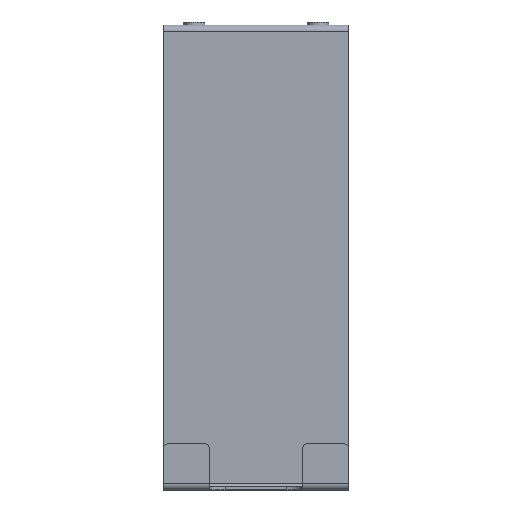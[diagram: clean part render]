
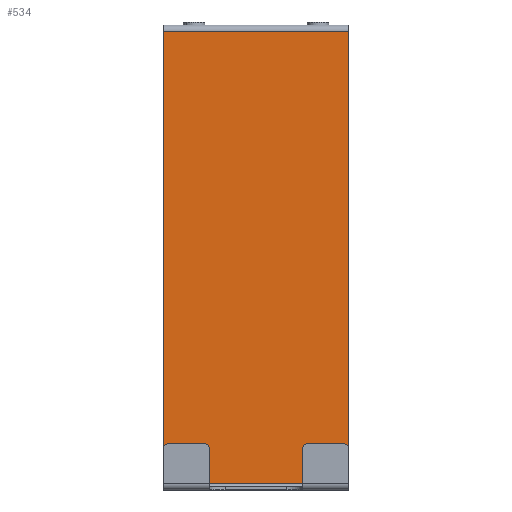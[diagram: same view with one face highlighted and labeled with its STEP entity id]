
A CAD part, top view. The second image highlights one B-rep face of the part: STEP entity #534.
In plain terms, the highlighted planar face has unit normal (0, 0, 1).
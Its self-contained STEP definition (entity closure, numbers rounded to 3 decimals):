
#13 = ORIENTED_EDGE ( 'NONE', *, *, #280, .F. ) ;
#25 = CIRCLE ( 'NONE', #1792, 3.4 ) ;
#29 = ORIENTED_EDGE ( 'NONE', *, *, #1346, .T. ) ;
#53 = VECTOR ( 'NONE', #770, 1000. ) ;
#163 = CARTESIAN_POINT ( 'NONE',  ( 30., -74.5, 0. ) ) ;
#165 = AXIS2_PLACEMENT_3D ( 'NONE', #2030, #685, #1547 ) ;
#178 = AXIS2_PLACEMENT_3D ( 'NONE', #789, #2016, #779 ) ;
#200 = CIRCLE ( 'NONE', #165, 3.4 ) ;
#210 = EDGE_CURVE ( 'NONE', #691, #363, #964, .T. ) ;
#213 = ORIENTED_EDGE ( 'NONE', *, *, #509, .F. ) ;
#214 = CARTESIAN_POINT ( 'NONE',  ( -20., -65.5, 0. ) ) ;
#280 = EDGE_CURVE ( 'NONE', #2226, #1443, #2079, .T. ) ;
#288 = AXIS2_PLACEMENT_3D ( 'NONE', #1352, #1366, #1530 ) ;
#329 = CARTESIAN_POINT ( 'NONE',  ( 16.6, -65.5, 0. ) ) ;
#363 = VERTEX_POINT ( 'NONE', #329 ) ;
#396 = CARTESIAN_POINT ( 'NONE',  ( -23.4, -65.5, 0. ) ) ;
#427 = ORIENTED_EDGE ( 'NONE', *, *, #488, .F. ) ;
#488 = EDGE_CURVE ( 'NONE', #1670, #1551, #880, .T. ) ;
#509 = EDGE_CURVE ( 'NONE', #1443, #2226, #25, .T. ) ;
#514 = CARTESIAN_POINT ( 'NONE',  ( -20., -65.5, 0. ) ) ;
#534 = ADVANCED_FACE ( 'NONE', ( #2178, #1845, #1797 ), #1833, .T. ) ;
#685 = DIRECTION ( 'NONE',  ( 0., 0., 1. ) ) ;
#691 = VERTEX_POINT ( 'NONE', #1277 ) ;
#692 = DIRECTION ( 'NONE',  ( 1., 0., 0. ) ) ;
#696 = ORIENTED_EDGE ( 'NONE', *, *, #1632, .T. ) ;
#706 = DIRECTION ( 'NONE',  ( -1., 0., 0. ) ) ;
#770 = DIRECTION ( 'NONE',  ( 0., -1., 0. ) ) ;
#779 = DIRECTION ( 'NONE',  ( 1., 0., 0. ) ) ;
#789 = CARTESIAN_POINT ( 'NONE',  ( 0., 0., 0. ) ) ;
#880 = LINE ( 'NONE', #929, #999 ) ;
#881 = VECTOR ( 'NONE', #1400, 1000. ) ;
#891 = DIRECTION ( 'NONE',  ( 0., 0., 1. ) ) ;
#929 = CARTESIAN_POINT ( 'NONE',  ( 30., -73.5, 0. ) ) ;
#964 = CIRCLE ( 'NONE', #288, 3.4 ) ;
#999 = VECTOR ( 'NONE', #1627, 1000. ) ;
#1055 = CARTESIAN_POINT ( 'NONE',  ( -16.6, -65.5, 0. ) ) ;
#1116 = VERTEX_POINT ( 'NONE', #2014 ) ;
#1155 = LINE ( 'NONE', #1639, #53 ) ;
#1188 = DIRECTION ( 'NONE',  ( 0., 0., 1. ) ) ;
#1192 = CARTESIAN_POINT ( 'NONE',  ( 30., -73.5, 0. ) ) ;
#1277 = CARTESIAN_POINT ( 'NONE',  ( 23.4, -65.5, 0. ) ) ;
#1344 = ORIENTED_EDGE ( 'NONE', *, *, #2040, .F. ) ;
#1346 = EDGE_CURVE ( 'NONE', #2167, #1551, #1155, .T. ) ;
#1350 = CARTESIAN_POINT ( 'NONE',  ( -30., -73.5, 0. ) ) ;
#1352 = CARTESIAN_POINT ( 'NONE',  ( 20., -65.5, 0. ) ) ;
#1366 = DIRECTION ( 'NONE',  ( 0., 0., 1. ) ) ;
#1400 = DIRECTION ( 'NONE',  ( 0., 1., 0. ) ) ;
#1443 = VERTEX_POINT ( 'NONE', #396 ) ;
#1447 = ORIENTED_EDGE ( 'NONE', *, *, #1665, .T. ) ;
#1528 = EDGE_LOOP ( 'NONE', ( #1344, #2190 ) ) ;
#1530 = DIRECTION ( 'NONE',  ( 1., 0., 0. ) ) ;
#1547 = DIRECTION ( 'NONE',  ( 1., 0., 0. ) ) ;
#1550 = CARTESIAN_POINT ( 'NONE',  ( 30., 72.5, 0. ) ) ;
#1551 = VERTEX_POINT ( 'NONE', #1350 ) ;
#1591 = DIRECTION ( 'NONE',  ( 1., 0., 0. ) ) ;
#1592 = CARTESIAN_POINT ( 'NONE',  ( -30., 72.5, 0. ) ) ;
#1615 = AXIS2_PLACEMENT_3D ( 'NONE', #514, #1188, #692 ) ;
#1620 = EDGE_LOOP ( 'NONE', ( #29, #427, #1447, #696 ) ) ;
#1627 = DIRECTION ( 'NONE',  ( -1., 0., 0. ) ) ;
#1632 = EDGE_CURVE ( 'NONE', #1116, #2167, #2044, .T. ) ;
#1639 = CARTESIAN_POINT ( 'NONE',  ( -30., -74.5, 0. ) ) ;
#1665 = EDGE_CURVE ( 'NONE', #1670, #1116, #1882, .T. ) ;
#1670 = VERTEX_POINT ( 'NONE', #1192 ) ;
#1718 = VECTOR ( 'NONE', #706, 1000. ) ;
#1792 = AXIS2_PLACEMENT_3D ( 'NONE', #214, #891, #1591 ) ;
#1797 = FACE_OUTER_BOUND ( 'NONE', #1620, .T. ) ;
#1833 = PLANE ( 'NONE',  #178 ) ;
#1845 = FACE_BOUND ( 'NONE', #1976, .T. ) ;
#1882 = LINE ( 'NONE', #163, #881 ) ;
#1976 = EDGE_LOOP ( 'NONE', ( #213, #13 ) ) ;
#2014 = CARTESIAN_POINT ( 'NONE',  ( 30., 72.5, 0. ) ) ;
#2016 = DIRECTION ( 'NONE',  ( 0., 0., 1. ) ) ;
#2030 = CARTESIAN_POINT ( 'NONE',  ( 20., -65.5, 0. ) ) ;
#2040 = EDGE_CURVE ( 'NONE', #363, #691, #200, .T. ) ;
#2044 = LINE ( 'NONE', #1550, #1718 ) ;
#2079 = CIRCLE ( 'NONE', #1615, 3.4 ) ;
#2167 = VERTEX_POINT ( 'NONE', #1592 ) ;
#2178 = FACE_BOUND ( 'NONE', #1528, .T. ) ;
#2190 = ORIENTED_EDGE ( 'NONE', *, *, #210, .F. ) ;
#2226 = VERTEX_POINT ( 'NONE', #1055 ) ;
